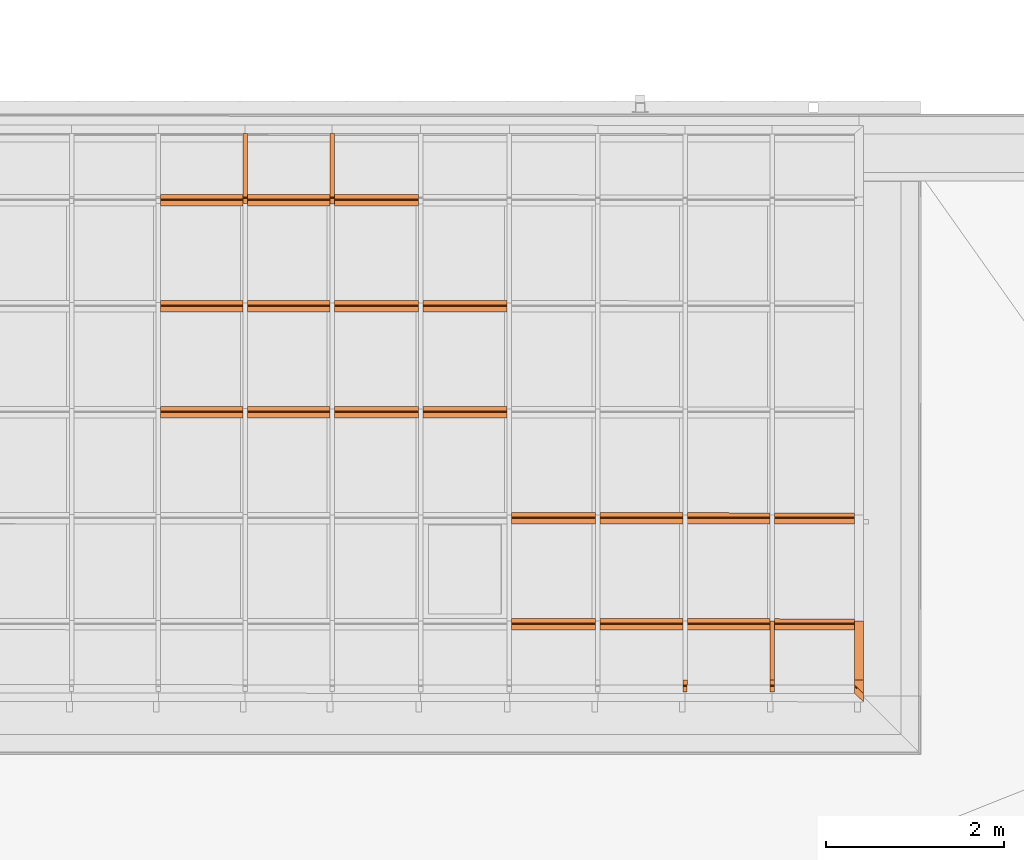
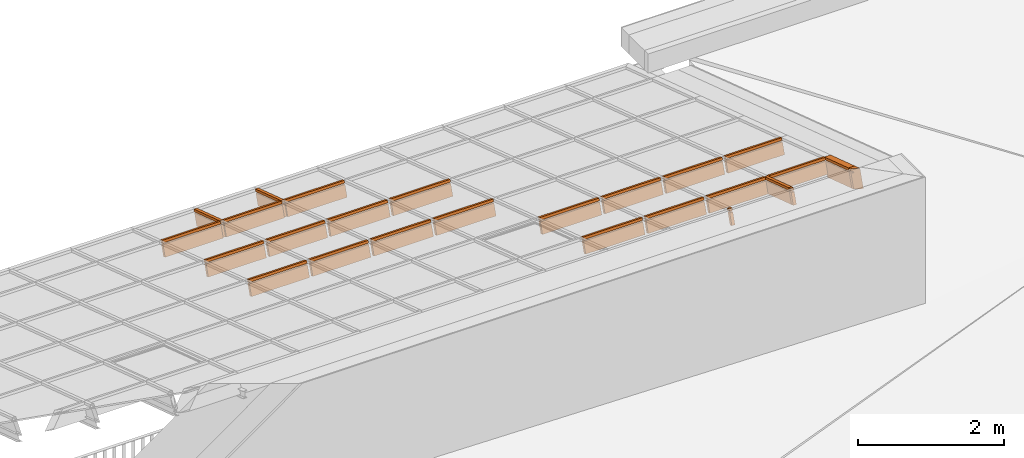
# One storey, part 46 of 47: 26 proxies, 1 element without a shape of its own.
"""IFC2X3 building model written with IfcOpenShell, lengths in millimetres."""

from ifc_helpers import new_model, entity, si_unit, converted_unit, derived_unit, money_unit, direction, frame, origin_with_axes, place, context, subcontext, project, spatial, polyline, outline, extrude, clip, halfspace, material, material_list, type_object, element, aggregate, save


model = new_model("IFC2X3")

# Units and contexts
model_context = context("Model", 3, precision=1e-05, world=origin_with_axes(), true_north=direction((0.0, 1.0)))
body_context = subcontext(model_context, "Body", "Model", "MODEL_VIEW")
ifc_project = project(units=[si_unit("LENGTHUNIT", "METRE", prefix="MILLI"), si_unit("AREAUNIT", "SQUARE_METRE"), si_unit("VOLUMEUNIT", "CUBIC_METRE"), converted_unit("PLANEANGLEUNIT", "DEGREE", entity("IfcPlaneAngleMeasure", 0.0174532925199), si_unit("PLANEANGLEUNIT", "RADIAN"), dimensions=[0, 0, 0, 0, 0, 0, 0]), si_unit("SOLIDANGLEUNIT", "STERADIAN"), money_unit("EUR"), converted_unit("TIMEUNIT", "Year", entity("IfcTimeMeasure", 31556926.0), si_unit("TIMEUNIT", "SECOND"), dimensions=[0, 0, 1, 0, 0, 0, 0]), si_unit("MASSUNIT", "GRAM", prefix="KILO"), si_unit("THERMODYNAMICTEMPERATUREUNIT", "DEGREE_CELSIUS"), si_unit("LUMINOUSINTENSITYUNIT", "LUMEN"), si_unit("ENERGYUNIT", "JOULE", prefix="MEGA"), derived_unit("THERMALCONDUCTANCEUNIT", [(si_unit("POWERUNIT", "WATT"), 1), (si_unit("LENGTHUNIT", "METRE"), -1), (si_unit("THERMODYNAMICTEMPERATUREUNIT", "KELVIN"), -1)]), derived_unit("SPECIFICHEATCAPACITYUNIT", [(si_unit("ENERGYUNIT", "JOULE"), 1), (si_unit("MASSUNIT", "GRAM", prefix="KILO"), -1), (si_unit("THERMODYNAMICTEMPERATUREUNIT", "KELVIN"), -1)]), derived_unit("MASSDENSITYUNIT", [(si_unit("MASSUNIT", "GRAM", prefix="KILO"), 1), (si_unit("VOLUMEUNIT", "CUBIC_METRE"), -1)])], contexts=[model_context])

# Site, building, storey
site_placement = place(None, origin_with_axes())
site = spatial("IfcSite", under=ifc_project, at=site_placement, Name="Site", CompositionType="ELEMENT")
building_placement = place(site_placement, origin_with_axes())
building = spatial("IfcBuilding", under=site, at=building_placement, Name="Building", CompositionType="ELEMENT")
storey_placement = place(building_placement, frame((0.0, 0.0, 6000.0), z_axis=(0.0, 0.0, 1.0), x_axis=(1.0, 0.0, 0.0)))
storey = spatial("IfcBuildingStorey", under=building, at=storey_placement, Name="KATUSEPLAAN", CompositionType="ELEMENT", Elevation=6000.0)

# Curtain wall, proxies
curtain_wall_type = type_object("IfcCurtainWallType", Name="KK-2", PredefinedType="NOTDEFINED")
curtain_wall_placement = place(storey_placement, frame((71638.1505463, 41358.6055567, 722.550081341), z_axis=(0.0, 0.0, 1.0), x_axis=(1.0, 0.0, 0.0)))
curtain_wall = element("IfcCurtainWall", 1, at=curtain_wall_placement, inside=storey, type_object=curtain_wall_type, Name="Talveaja klaaskatus")
ifc_material = material(Name="Alumiinium (1)")
ifc_material_list = material_list([ifc_material, ifc_material])
building_element_proxy_type_1 = type_object("IfcBuildingElementProxyType", Name="Frame-Mll-569", PredefinedType="NOTDEFINED")
proxy_1_placement = place(curtain_wall_placement, frame((9313.99605281, 5979.11495635, 6.01482092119), z_axis=(0.0, -0.950019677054, 0.312190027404), x_axis=(-0.999999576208, 0.00028741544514, 0.000874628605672)))
proxy_1 = element("IfcBuildingElementProxy", 2, at=proxy_1_placement, type_object=building_element_proxy_type_1, material=ifc_material_list, Name="Alumiinium (1);  Objekti nimi: Frame 22", context=body_context, shape_type="SweptSolid", body=[
    extrude(outline(polyline([(25.0091958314, 9.97697969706), (25.1841179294, 199.976899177), (-24.8158608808, 200.022931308), (-24.9907829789, 10.0230118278), (25.0091958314, 9.97697969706)])), frame((0.0, 0.0, 50.0000000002), z_axis=(0.0, 0.0, 1.0), x_axis=(0.999999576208, 0.000920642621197, 0.0)), (0.0, 0.0, 1.0), 744.739022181),
    extrude(outline(polyline([(-25.0091958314, -9.9769796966), (-25.0460215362, -49.9769627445), (24.9539572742, -50.0229948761), (24.9907829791, -10.0230118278), (-25.0091958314, -9.9769796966)])), frame((0.0, 0.0, 50.0000000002), z_axis=(0.0, 0.0, 1.0), x_axis=(0.999999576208, 0.000920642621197, 0.0)), (0.0, 0.0, 1.0), 744.739022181),
])
building_element_proxy_type_2 = type_object("IfcBuildingElementProxyType", Name="Frame-Mll-211", PredefinedType="NOTDEFINED")
proxy_2_placement = place(curtain_wall_placement, frame((10286.9956405, 5978.83530112, 5.16380728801), z_axis=(0.0, -0.950019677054, 0.312190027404), x_axis=(-0.999999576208, 0.000287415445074, 0.000874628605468)))
proxy_2 = element("IfcBuildingElementProxy", 3, at=proxy_2_placement, type_object=building_element_proxy_type_2, material=ifc_material_list, Name="Alumiinium (1);  Objekti nimi: Frame 22", context=body_context, shape_type="SweptSolid", body=[
    extrude(outline(polyline([(25.0091958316, 9.9769796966), (25.1841179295, 199.976899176), (-24.8158608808, 200.022931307), (-24.9907829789, 10.0230118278), (25.0091958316, 9.9769796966)])), frame((1.13686837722e-10, 0.0, 49.9999999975), z_axis=(0.0, 0.0, 1.0), x_axis=(0.999999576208, 0.000920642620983, 0.0)), (0.0, 0.0, 1.0), 744.739022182),
    extrude(outline(polyline([(-25.0091958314, -9.97697969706), (-25.0460215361, -49.9769627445), (24.9539572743, -50.0229948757), (24.9907829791, -10.0230118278), (-25.0091958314, -9.97697969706)])), frame((1.13686837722e-10, 0.0, 49.9999999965), z_axis=(0.0, 0.0, 1.0), x_axis=(0.999999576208, 0.000920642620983, 0.0)), (0.0, 0.0, 1.0), 744.739022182),
])
building_element_proxy_type_3 = type_object("IfcBuildingElementProxyType", Name="Frame-Trs-187", PredefinedType="NOTDEFINED")
proxy_3_placement = place(curtain_wall_placement, frame((8340.99646516, 5224.37690239, 254.975431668), z_axis=(0.999999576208, -0.000287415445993, -0.000874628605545), x_axis=(0.0, -0.950019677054, 0.312190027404)))
proxy_3 = element("IfcBuildingElementProxy", 4, at=proxy_3_placement, type_object=building_element_proxy_type_3, material=ifc_material_list, Name="Alumiinium (1);  Objekti nimi: Frame 22", context=body_context, shape_type="SweptSolid", body=[
    extrude(outline(polyline([(26.8723924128, 1.69544270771), (86.1885203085, 182.199173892), (38.6875384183, 197.808681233), (-20.6285894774, 17.3049500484), (26.8723924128, 1.69544270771)])), frame((0.0, 0.0, 24.9999999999), z_axis=(0.0, 0.0, 1.0), x_axis=(0.950019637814, 0.312190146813, 0.0)), (0.0, 0.0, 1.0), 923.0),
    extrude(outline(polyline([(-26.8723924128, -1.69544270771), (-39.3599982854, -39.6962282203), (8.14098360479, -55.3057355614), (20.6285894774, -17.3049500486), (-26.8723924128, -1.69544270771)])), frame((0.0, 0.0, 24.9999999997), z_axis=(0.0, 0.0, 1.0), x_axis=(0.950019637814, 0.312190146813, 0.0)), (0.0, 0.0, 1.0), 923.000000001),
])
building_element_proxy_type_4 = type_object("IfcBuildingElementProxyType", Name="Frame-Trs-188", PredefinedType="NOTDEFINED")
proxy_4_placement = place(curtain_wall_placement, frame((9313.99605281, 5224.09724716, 254.124418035), z_axis=(0.999999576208, -0.000287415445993, -0.000874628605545), x_axis=(0.0, -0.950019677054, 0.312190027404)))
proxy_4 = element("IfcBuildingElementProxy", 5, at=proxy_4_placement, type_object=building_element_proxy_type_4, material=ifc_material_list, Name="Alumiinium (1);  Objekti nimi: Frame 22", context=body_context, shape_type="SweptSolid", body=[
    extrude(outline(polyline([(26.8723924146, 1.69544270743), (86.1885203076, 182.199173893), (38.6875384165, 197.808681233), (-20.6285894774, 17.3049500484), (26.8723924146, 1.69544270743)])), frame((0.0, 0.0, 24.9999999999), z_axis=(0.0, 0.0, 1.0), x_axis=(0.950019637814, 0.312190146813, 0.0)), (0.0, 0.0, 1.0), 923.0),
    extrude(outline(polyline([(-26.8723924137, -1.69544270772), (-39.3599982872, -39.6962282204), (8.14098360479, -55.3057355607), (20.6285894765, -17.3049500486), (-26.8723924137, -1.69544270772)])), frame((0.0, 0.0, 24.9999999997), z_axis=(0.0, 0.0, 1.0), x_axis=(0.950019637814, 0.312190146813, 0.0)), (0.0, 0.0, 1.0), 923.0),
])
building_element_proxy_type_5 = type_object("IfcBuildingElementProxyType", Name="Frame-Trs-189", PredefinedType="NOTDEFINED")
proxy_5_placement = place(curtain_wall_placement, frame((10286.9956405, 5223.81759193, 253.273404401), z_axis=(0.999999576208, -0.000287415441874, -0.000874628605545), x_axis=(0.0, -0.950019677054, 0.312190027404)))
proxy_5 = element("IfcBuildingElementProxy", 6, at=proxy_5_placement, type_object=building_element_proxy_type_5, material=ifc_material_list, Name="Alumiinium (1);  Objekti nimi: Frame 22", context=body_context, shape_type="SweptSolid", body=[
    extrude(outline(polyline([(26.8723924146, 1.69544270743), (86.1885203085, 182.199173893), (38.6875384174, 197.808681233), (-20.6285894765, 17.3049500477), (26.8723924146, 1.69544270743)])), frame((9.09494701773e-10, 0.0, 24.9999999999), z_axis=(0.0, 0.0, 1.0), x_axis=(0.950019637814, 0.312190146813, 0.0)), (0.0, 0.0, 1.0), 943.0),
    extrude(outline(polyline([(-26.8723924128, -1.69544270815), (-39.3599982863, -39.6962282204), (8.14098360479, -55.3057355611), (20.6285894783, -17.3049500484), (-26.8723924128, -1.69544270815)])), frame((9.09494701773e-10, 0.0, 24.9999999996), z_axis=(0.0, 0.0, 1.0), x_axis=(0.950019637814, 0.312190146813, 0.0)), (0.0, 0.0, 1.0), 943.0),
])
building_element_proxy_type_6 = type_object("IfcBuildingElementProxyType", Name="Frame-Trs-211", PredefinedType="NOTDEFINED")
proxy_6_placement = place(curtain_wall_placement, frame((8340.99646516, 4036.85230607, 645.212965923), z_axis=(0.999999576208, -0.000287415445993, -0.000874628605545), x_axis=(0.0, -0.950019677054, 0.312190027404)))
proxy_6 = element("IfcBuildingElementProxy", 7, at=proxy_6_placement, type_object=building_element_proxy_type_6, material=ifc_material_list, Name="Alumiinium (1);  Objekti nimi: Frame 22", context=body_context, shape_type="SweptSolid", body=[
    extrude(outline(polyline([(26.8723924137, 1.69544270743), (86.1885203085, 182.199173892), (38.6875384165, 197.808681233), (-20.6285894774, 17.3049500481), (26.8723924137, 1.69544270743)])), frame((9.09494701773e-10, 0.0, 25.0), z_axis=(0.0, 0.0, 1.0), x_axis=(0.950019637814, 0.312190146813, 0.0)), (0.0, 0.0, 1.0), 923.000000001),
    extrude(outline(polyline([(-26.8723924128, -1.69544270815), (-39.3599982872, -39.6962282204), (8.14098360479, -55.3057355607), (20.6285894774, -17.3049500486), (-26.8723924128, -1.69544270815)])), frame((9.09494701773e-10, 0.0, 25.0), z_axis=(0.0, 0.0, 1.0), x_axis=(0.950019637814, 0.312190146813, 0.0)), (0.0, 0.0, 1.0), 923.0),
])
building_element_proxy_type_7 = type_object("IfcBuildingElementProxyType", Name="Frame-Trs-250", PredefinedType="NOTDEFINED")
proxy_7_placement = place(curtain_wall_placement, frame((8340.99646516, 2849.32770975, 1035.45050018), z_axis=(0.999999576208, -0.000287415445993, -0.000874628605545), x_axis=(0.0, -0.950019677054, 0.312190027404)))
proxy_7 = element("IfcBuildingElementProxy", 8, at=proxy_7_placement, type_object=building_element_proxy_type_7, material=ifc_material_list, Name="Alumiinium (1);  Objekti nimi: Frame 22", context=body_context, shape_type="SweptSolid", body=[
    extrude(outline(polyline([(26.8723924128, 1.695442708), (86.1885203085, 182.199173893), (38.6875384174, 197.808681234), (-20.6285894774, 17.3049500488), (26.8723924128, 1.695442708)])), frame((-9.09494701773e-10, 4.54747350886e-10, 24.9999999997), z_axis=(0.0, 0.0, 1.0), x_axis=(0.950019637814, 0.312190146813, 0.0)), (0.0, 0.0, 1.0), 923.0),
    extrude(outline(polyline([(-26.8723924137, -1.69544270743), (-39.3599982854, -39.69622822), (8.14098360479, -55.3057355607), (20.6285894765, -17.3049500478), (-26.8723924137, -1.69544270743)])), frame((-9.09494701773e-10, 4.54747350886e-10, 24.9999999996), z_axis=(0.0, 0.0, 1.0), x_axis=(0.950019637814, 0.312190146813, 0.0)), (0.0, 0.0, 1.0), 923.000000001),
])
building_element_proxy_type_8 = type_object("IfcBuildingElementProxyType", Name="Frame-Trs-212", PredefinedType="NOTDEFINED")
proxy_8_placement = place(curtain_wall_placement, frame((9313.99605281, 4036.57265084, 644.361952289), z_axis=(0.999999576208, -0.000287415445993, -0.000874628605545), x_axis=(0.0, -0.950019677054, 0.312190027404)))
proxy_8 = element("IfcBuildingElementProxy", 9, at=proxy_8_placement, type_object=building_element_proxy_type_8, material=ifc_material_list, Name="Alumiinium (1);  Objekti nimi: Frame 22", context=body_context, shape_type="SweptSolid", body=[
    extrude(outline(polyline([(26.8723924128, 1.69544270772), (86.1885203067, 182.199173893), (38.6875384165, 197.808681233), (-20.6285894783, 17.3049500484), (26.8723924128, 1.69544270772)])), frame((9.09494701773e-10, 0.0, 25.0000000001), z_axis=(0.0, 0.0, 1.0), x_axis=(0.950019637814, 0.312190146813, 0.0)), (0.0, 0.0, 1.0), 923.0),
    extrude(outline(polyline([(-26.8723924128, -1.69544270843), (-39.3599982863, -39.6962282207), (8.14098360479, -55.3057355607), (20.6285894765, -17.3049500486), (-26.8723924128, -1.69544270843)])), frame((9.09494701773e-10, 0.0, 25.0000000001), z_axis=(0.0, 0.0, 1.0), x_axis=(0.950019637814, 0.312190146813, 0.0)), (0.0, 0.0, 1.0), 923.0),
])
building_element_proxy_type_9 = type_object("IfcBuildingElementProxyType", Name="Frame-Trs-249", PredefinedType="NOTDEFINED")
proxy_9_placement = place(curtain_wall_placement, frame((9313.99605281, 2849.04805452, 1034.59948654), z_axis=(0.999999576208, -0.000287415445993, -0.000874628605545), x_axis=(0.0, -0.950019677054, 0.312190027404)))
proxy_9 = element("IfcBuildingElementProxy", 10, at=proxy_9_placement, type_object=building_element_proxy_type_9, material=ifc_material_list, Name="Alumiinium (1);  Objekti nimi: Frame 22", context=body_context, shape_type="SweptSolid", body=[
    extrude(outline(polyline([(26.8723924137, 1.69544270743), (86.1885203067, 182.199173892), (38.6875384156, 197.808681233), (-20.6285894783, 17.3049500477), (26.8723924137, 1.69544270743)])), frame((9.09494701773e-10, 0.0, 24.9999999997), z_axis=(0.0, 0.0, 1.0), x_axis=(0.950019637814, 0.312190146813, 0.0)), (0.0, 0.0, 1.0), 923.0),
    extrude(outline(polyline([(-26.8723924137, -1.69544270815), (-39.3599982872, -39.6962282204), (8.14098360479, -55.3057355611), (20.6285894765, -17.3049500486), (-26.8723924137, -1.69544270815)])), frame((9.09494701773e-10, 0.0, 24.9999999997), z_axis=(0.0, 0.0, 1.0), x_axis=(0.950019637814, 0.312190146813, 0.0)), (0.0, 0.0, 1.0), 923.0),
])
building_element_proxy_type_10 = type_object("IfcBuildingElementProxyType", Name="Frame-Trs-213", PredefinedType="NOTDEFINED")
proxy_10_placement = place(curtain_wall_placement, frame((10286.9956405, 4036.29299561, 643.510938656), z_axis=(0.999999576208, -0.000287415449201, -0.000874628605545), x_axis=(0.0, -0.950019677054, 0.312190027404)))
proxy_10 = element("IfcBuildingElementProxy", 11, at=proxy_10_placement, type_object=building_element_proxy_type_10, material=ifc_material_list, Name="Alumiinium (1);  Objekti nimi: Frame 22", context=body_context, shape_type="SweptSolid", body=[
    extrude(outline(polyline([(26.8723924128, 1.695442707), (86.1885203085, 182.199173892), (38.6875384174, 197.808681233), (-20.6285894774, 17.3049500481), (26.8723924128, 1.695442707)])), frame((9.09494701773e-10, 0.0, 24.9999999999), z_axis=(0.0, 0.0, 1.0), x_axis=(0.950019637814, 0.312190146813, 0.0)), (0.0, 0.0, 1.0), 943.0),
    extrude(outline(polyline([(-26.8723924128, -1.69544270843), (-39.3599982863, -39.6962282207), (8.14098360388, -55.3057355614), (20.6285894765, -17.3049500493), (-26.8723924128, -1.69544270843)])), frame((9.09494701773e-10, 0.0, 24.9999999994), z_axis=(0.0, 0.0, 1.0), x_axis=(0.950019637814, 0.312190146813, 0.0)), (0.0, 0.0, 1.0), 943.0),
])
building_element_proxy_type_11 = type_object("IfcBuildingElementProxyType", Name="Frame-Trs-248", PredefinedType="NOTDEFINED")
proxy_11_placement = place(curtain_wall_placement, frame((10286.9956405, 2848.76839929, 1033.74847291), z_axis=(0.999999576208, -0.000287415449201, -0.000874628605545), x_axis=(0.0, -0.950019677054, 0.312190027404)))
proxy_11 = element("IfcBuildingElementProxy", 12, at=proxy_11_placement, type_object=building_element_proxy_type_11, material=ifc_material_list, Name="Alumiinium (1);  Objekti nimi: Frame 22", context=body_context, shape_type="SweptSolid", body=[
    extrude(outline(polyline([(26.8723924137, 1.69544270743), (86.1885203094, 182.199173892), (38.6875384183, 197.808681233), (-20.6285894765, 17.3049500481), (26.8723924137, 1.69544270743)])), frame((9.09494701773e-10, 0.0, 25.0000000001), z_axis=(0.0, 0.0, 1.0), x_axis=(0.950019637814, 0.312190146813, 0.0)), (0.0, 0.0, 1.0), 943.0),
    extrude(outline(polyline([(-26.8723924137, -1.69544270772), (-39.3599982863, -39.6962282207), (8.14098360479, -55.3057355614), (20.6285894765, -17.3049500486), (-26.8723924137, -1.69544270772)])), frame((9.09494701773e-10, 0.0, 24.9999999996), z_axis=(0.0, 0.0, 1.0), x_axis=(0.950019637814, 0.312190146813, 0.0)), (0.0, 0.0, 1.0), 943.000000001),
])
building_element_proxy_type_12 = type_object("IfcBuildingElementProxyType", Name="Frame-Trs-214", PredefinedType="NOTDEFINED")
proxy_12_placement = place(curtain_wall_placement, frame((11279.9952196, 4036.00759207, 642.642432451), z_axis=(0.999999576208, -0.000287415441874, -0.000874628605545), x_axis=(0.0, -0.950019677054, 0.312190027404)))
proxy_12 = element("IfcBuildingElementProxy", 13, at=proxy_12_placement, type_object=building_element_proxy_type_12, material=ifc_material_list, Name="Alumiinium (1);  Objekti nimi: Frame 22", context=body_context, shape_type="SweptSolid", body=[
    extrude(outline(polyline([(26.8723924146, 1.69544270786), (86.1885203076, 182.199173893), (38.6875384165, 197.808681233), (-20.6285894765, 17.3049500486), (26.8723924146, 1.69544270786)])), frame((0.0, 0.0, 25.0000000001), z_axis=(0.0, 0.0, 1.0), x_axis=(0.950019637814, 0.312190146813, 0.0)), (0.0, 0.0, 1.0), 943.0),
    extrude(outline(polyline([(-26.8723924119, -1.695442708), (-39.3599982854, -39.6962282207), (8.1409836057, -55.3057355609), (20.6285894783, -17.3049500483), (-26.8723924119, -1.695442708)])), frame((0.0, 0.0, 24.9999999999), z_axis=(0.0, 0.0, 1.0), x_axis=(0.950019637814, 0.312190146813, 0.0)), (0.0, 0.0, 1.0), 943.0),
])
building_element_proxy_type_13 = type_object("IfcBuildingElementProxyType", Name="Frame-Trs-247", PredefinedType="NOTDEFINED")
proxy_13_placement = place(curtain_wall_placement, frame((11279.9952196, 2848.48299575, 1032.87996671), z_axis=(0.999999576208, -0.000287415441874, -0.000874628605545), x_axis=(0.0, -0.950019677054, 0.312190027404)))
proxy_13 = element("IfcBuildingElementProxy", 14, at=proxy_13_placement, type_object=building_element_proxy_type_13, material=ifc_material_list, Name="Alumiinium (1);  Objekti nimi: Frame 22", context=body_context, shape_type="SweptSolid", body=[
    extrude(outline(polyline([(26.8723924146, 1.69544270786), (86.1885203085, 182.199173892), (38.6875384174, 197.808681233), (-20.6285894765, 17.3049500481), (26.8723924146, 1.69544270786)])), frame((0.0, 0.0, 25.0), z_axis=(0.0, 0.0, 1.0), x_axis=(0.950019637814, 0.312190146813, 0.0)), (0.0, 0.0, 1.0), 943.0),
    extrude(outline(polyline([(-26.8723924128, -1.695442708), (-39.3599982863, -39.696228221), (8.14098360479, -55.3057355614), (20.6285894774, -17.3049500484), (-26.8723924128, -1.695442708)])), frame((0.0, 0.0, 24.9999999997), z_axis=(0.0, 0.0, 1.0), x_axis=(0.950019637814, 0.312190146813, 0.0)), (0.0, 0.0, 1.0), 943.0),
])
building_element_proxy_type_14 = type_object("IfcBuildingElementProxyType", Name="Frame-Trs-767", PredefinedType="NOTDEFINED")
proxy_14_placement = place(curtain_wall_placement, frame((12272.9947988, 1660.6729959, 1422.24899476), z_axis=(0.999999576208, -0.000287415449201, -0.000874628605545), x_axis=(0.0, -0.950019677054, 0.312190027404)))
proxy_14 = element("IfcBuildingElementProxy", 15, at=proxy_14_placement, type_object=building_element_proxy_type_14, material=ifc_material_list, Name="Alumiinium (1);  Objekti nimi: Frame 22", context=body_context, shape_type="SweptSolid", body=[
    extrude(outline(polyline([(26.8723924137, 1.69544270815), (86.1885203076, 182.199173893), (38.6875384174, 197.808681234), (-20.6285894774, 17.3049500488), (26.8723924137, 1.69544270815)])), frame((0.0, 4.54747350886e-10, 24.9999999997), z_axis=(0.0, 0.0, 1.0), x_axis=(0.950019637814, 0.312190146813, 0.0)), (0.0, 0.0, 1.0), 943.0),
    extrude(outline(polyline([(-26.8723924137, -1.695442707), (-39.3599982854, -39.69622822), (8.14098360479, -55.3057355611), (20.6285894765, -17.3049500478), (-26.8723924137, -1.695442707)])), frame((0.0, 4.54747350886e-10, 24.9999999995), z_axis=(0.0, 0.0, 1.0), x_axis=(0.950019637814, 0.312190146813, 0.0)), (0.0, 0.0, 1.0), 943.000000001),
])
building_element_proxy_type_15 = type_object("IfcBuildingElementProxyType", Name="Frame-Trs-769", PredefinedType="NOTDEFINED")
proxy_15_placement = place(curtain_wall_placement, frame((14241.9939644, 1660.10707489, 1420.52685103), z_axis=(0.999999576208, -0.000287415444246, -0.000874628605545), x_axis=(0.0, -0.950019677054, 0.312190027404)))
proxy_15 = element("IfcBuildingElementProxy", 16, at=proxy_15_placement, type_object=building_element_proxy_type_15, material=ifc_material_list, Name="Alumiinium (1);  Objekti nimi: Frame 22", context=body_context, shape_type="SweptSolid", body=[
    extrude(outline(polyline([(26.8723924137, 1.69544270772), (86.1885203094, 182.199173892), (38.6875384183, 197.808681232), (-20.6285894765, 17.3049500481), (26.8723924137, 1.69544270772)])), frame((0.0, 0.0, 24.9999999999), z_axis=(0.0, 0.0, 1.0), x_axis=(0.950019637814, 0.312190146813, 0.0)), (0.0, 0.0, 1.0), 926.0),
    extrude(outline(polyline([(-26.8723924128, -1.69544270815), (-39.3599982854, -39.6962282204), (8.14098360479, -55.3057355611), (20.6285894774, -17.3049500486), (-26.8723924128, -1.69544270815)])), frame((0.0, 0.0, 24.9999999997), z_axis=(0.0, 0.0, 1.0), x_axis=(0.950019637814, 0.312190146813, 0.0)), (0.0, 0.0, 1.0), 926.000000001),
])
building_element_proxy_type_16 = type_object("IfcBuildingElementProxyType", Name="Frame-Trs-535", PredefinedType="NOTDEFINED")
proxy_16_placement = place(curtain_wall_placement, frame((12272.9947988, 473.148399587, 1812.48652901), z_axis=(0.999999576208, -0.000287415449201, -0.000874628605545), x_axis=(0.0, -0.950019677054, 0.312190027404)))
proxy_16 = element("IfcBuildingElementProxy", 17, at=proxy_16_placement, type_object=building_element_proxy_type_16, material=ifc_material_list, Name="Alumiinium (1);  Objekti nimi: Frame 22", context=body_context, shape_type="SweptSolid", body=[
    extrude(outline(polyline([(26.8723924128, 1.69544270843), (86.1885203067, 182.199173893), (38.6875384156, 197.808681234), (-20.6285894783, 17.3049500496), (26.8723924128, 1.69544270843)])), frame((-9.09494701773e-10, 0.0, 25.0000000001), z_axis=(0.0, 0.0, 1.0), x_axis=(0.950019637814, 0.312190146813, 0.0)), (0.0, 0.0, 1.0), 943.0),
    extrude(outline(polyline([(-26.8723924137, -1.695442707), (-39.3599982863, -39.6962282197), (8.14098360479, -55.3057355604), (20.6285894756, -17.3049500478), (-26.8723924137, -1.695442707)])), frame((-9.09494701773e-10, 0.0, 24.9999999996), z_axis=(0.0, 0.0, 1.0), x_axis=(0.950019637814, 0.312190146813, 0.0)), (0.0, 0.0, 1.0), 943.000000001),
])
building_element_proxy_type_17 = type_object("IfcBuildingElementProxyType", Name="Frame-Trs-537", PredefinedType="NOTDEFINED")
proxy_17_placement = place(curtain_wall_placement, frame((14241.9939644, 472.582478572, 1810.76438529), z_axis=(0.999999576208, -0.000287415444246, -0.000874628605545), x_axis=(0.0, -0.950019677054, 0.312190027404)))
proxy_17 = element("IfcBuildingElementProxy", 18, at=proxy_17_placement, type_object=building_element_proxy_type_17, material=ifc_material_list, Name="Alumiinium (1);  Objekti nimi: Frame 22", context=body_context, shape_type="SweptSolid", body=[
    extrude(outline(polyline([(26.8723924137, 1.69544270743), (86.1885203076, 182.199173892), (38.6875384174, 197.808681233), (-20.6285894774, 17.304950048), (26.8723924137, 1.69544270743)])), frame((9.09494701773e-10, 0.0, 25.0000000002), z_axis=(0.0, 0.0, 1.0), x_axis=(0.950019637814, 0.312190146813, 0.0)), (0.0, 0.0, 1.0), 926.0),
    extrude(outline(polyline([(-26.8723924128, -1.69544270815), (-39.3599982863, -39.6962282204), (8.14098360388, -55.3057355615), (20.6285894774, -17.304950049), (-26.8723924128, -1.69544270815)])), frame((9.09494701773e-10, 0.0, 25.0), z_axis=(0.0, 0.0, 1.0), x_axis=(0.950019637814, 0.312190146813, 0.0)), (0.0, 0.0, 1.0), 926.000000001),
])
building_element_proxy_type_18 = type_object("IfcBuildingElementProxyType", Name="Frame-Bnd-639", PredefinedType="NOTDEFINED")
proxy_18_placement = place(curtain_wall_placement, frame((16190.9931384, -192.991468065, 2027.59275332), z_axis=(0.0, -0.950019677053, 0.312190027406), x_axis=(-0.999999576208, 0.000287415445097, 0.000874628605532)))
proxy_18 = element("IfcBuildingElementProxy", 19, at=proxy_18_placement, type_object=building_element_proxy_type_18, material=ifc_material, Name="Alumiinium (1);  Objekti nimi: Built-in Frame", context=body_context, shape_type="Clipping", body=[
    clip(extrude(outline(polyline([(20.0091979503, 9.98158291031), (50.0091852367, 9.95396363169), (50.2301394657, 249.953861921), (-49.7698181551, 250.045926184), (-50.0460109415, -49.9539466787), (49.9539466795, -50.0460109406), (49.9907723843, -10.0460278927), (19.9907850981, -10.0184086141), (20.0091979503, 9.98158291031)])), frame((0.0, 4.54747350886e-10, -1.81898940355e-09), z_axis=(0.0, 0.0, 1.0), x_axis=(0.999999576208, 0.000920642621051, 0.0)), (0.0, 0.0, 1.0), 155.260977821), halfspace(frame((52.6304889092, 1.22109822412e-10, 52.6304889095), z_axis=(-0.707106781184, 0.0, -0.707106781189), x_axis=(0.0, 1.0, 0.0)), True)),
])
building_element_proxy_type_19 = type_object("IfcBuildingElementProxyType", Name="Frame-Trs-768", PredefinedType="NOTDEFINED")
proxy_19_placement = place(curtain_wall_placement, frame((13265.994378, 1660.38759236, 1421.38048855), z_axis=(0.999999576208, -0.000287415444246, -0.000874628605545), x_axis=(0.0, -0.950019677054, 0.312190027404)))
proxy_19 = element("IfcBuildingElementProxy", 20, at=proxy_19_placement, type_object=building_element_proxy_type_19, material=ifc_material_list, Name="Alumiinium (1);  Objekti nimi: Frame 22", context=body_context, shape_type="SweptSolid", body=[
    extrude(outline(polyline([(26.8723924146, 1.69544270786), (86.1885203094, 182.199173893), (38.6875384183, 197.808681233), (-20.6285894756, 17.3049500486), (26.8723924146, 1.69544270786)])), frame((9.09494701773e-10, 0.0, 25.0000000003), z_axis=(0.0, 0.0, 1.0), x_axis=(0.950019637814, 0.312190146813, 0.0)), (0.0, 0.0, 1.0), 926.0),
    extrude(outline(polyline([(-26.8723924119, -1.69544270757), (-39.3599982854, -39.696228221), (8.14098360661, -55.3057355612), (20.6285894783, -17.3049500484), (-26.8723924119, -1.69544270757)])), frame((9.09494701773e-10, 0.0, 25.0), z_axis=(0.0, 0.0, 1.0), x_axis=(0.950019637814, 0.312190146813, 0.0)), (0.0, 0.0, 1.0), 926.0),
])
building_element_proxy_type_20 = type_object("IfcBuildingElementProxyType", Name="Frame-Trs-770", PredefinedType="NOTDEFINED")
proxy_20_placement = place(curtain_wall_placement, frame((15217.9935507, 1659.82655741, 1419.67321351), z_axis=(0.999999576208, -0.000287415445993, -0.000874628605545), x_axis=(0.0, -0.950019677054, 0.312190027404)))
proxy_20 = element("IfcBuildingElementProxy", 21, at=proxy_20_placement, type_object=building_element_proxy_type_20, material=ifc_material_list, Name="Alumiinium (1);  Objekti nimi: Frame 22", context=body_context, shape_type="SweptSolid", body=[
    extrude(outline(polyline([(26.8723924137, 1.69544270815), (86.1885203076, 182.199173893), (38.6875384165, 197.808681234), (-20.6285894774, 17.3049500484), (26.8723924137, 1.69544270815)])), frame((0.0, 0.0, 25.0), z_axis=(0.0, 0.0, 1.0), x_axis=(0.950019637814, 0.312190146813, 0.0)), (0.0, 0.0, 1.0), 898.0),
    extrude(outline(polyline([(-26.8723924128, -1.69544270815), (-39.3599982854, -39.6962282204), (8.1409836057, -55.3057355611), (20.6285894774, -17.3049500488), (-26.8723924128, -1.69544270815)])), frame((0.0, 0.0, 24.9999999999), z_axis=(0.0, 0.0, 1.0), x_axis=(0.950019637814, 0.312190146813, 0.0)), (0.0, 0.0, 1.0), 898.0),
])
building_element_proxy_type_21 = type_object("IfcBuildingElementProxyType", Name="Frame-Bnd-638", PredefinedType="NOTDEFINED")
proxy_21_placement = place(curtain_wall_placement, frame((16190.9931384, 472.022305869, 1809.05973413), z_axis=(0.0, -0.950019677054, 0.312190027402), x_axis=(-0.999999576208, 0.000287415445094, 0.000874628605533)))
proxy_21 = element("IfcBuildingElementProxy", 22, at=proxy_21_placement, type_object=building_element_proxy_type_21, material=ifc_material, Name="Alumiinium (1);  Objekti nimi: Built-in Frame", context=body_context, shape_type="SweptSolid", body=[
    extrude(outline(polyline([(20.0091979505, 9.98158291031), (50.0091852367, 9.95396363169), (50.2301394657, 249.953861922), (-49.769818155, 250.045926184), (-50.0460109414, -49.9539466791), (49.9539466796, -50.0460109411), (49.9907723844, -10.0460278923), (19.9907850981, -10.0184086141), (20.0091979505, 9.98158291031)])), frame((0.0, 0.0, -3.63797880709e-09), z_axis=(0.0, 0.0, 1.0), x_axis=(0.999999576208, 0.000920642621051, 0.0)), (0.0, 0.0, 1.0), 700.000000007),
])
building_element_proxy_type_22 = type_object("IfcBuildingElementProxyType", Name="Frame-Mll-891", PredefinedType="NOTDEFINED")
proxy_22_placement = place(curtain_wall_placement, frame((15217.9935507, 472.301961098, 1809.91074777), z_axis=(0.0, -0.950019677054, 0.312190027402), x_axis=(-0.999999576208, 0.000287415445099, 0.000874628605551)))
proxy_22 = element("IfcBuildingElementProxy", 23, at=proxy_22_placement, type_object=building_element_proxy_type_22, material=ifc_material_list, Name="Alumiinium (1);  Objekti nimi: Frame 22", context=body_context, shape_type="SweptSolid", body=[
    extrude(outline(polyline([(25.0091958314, 9.97697969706), (25.1841179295, 199.976899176), (-24.8158608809, 200.022931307), (-24.990782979, 10.0230118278), (25.0091958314, 9.97697969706)])), frame((0.0, 0.0, -9.09494701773e-10), z_axis=(0.0, 0.0, 1.0), x_axis=(0.999999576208, 0.00092064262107, 0.0)), (0.0, 0.0, 1.0), 700.000000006),
    extrude(outline(polyline([(-25.0091958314, -9.9769796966), (-25.0460215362, -49.9769627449), (24.9539572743, -50.0229948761), (24.9907829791, -10.0230118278), (-25.0091958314, -9.9769796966)])), frame((0.0, 0.0, 0.0), z_axis=(0.0, 0.0, 1.0), x_axis=(0.999999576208, 0.00092064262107, 0.0)), (0.0, 0.0, 1.0), 700.000000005),
])
building_element_proxy_type_23 = type_object("IfcBuildingElementProxyType", Name="Frame-Trs-536", PredefinedType="NOTDEFINED")
proxy_23_placement = place(curtain_wall_placement, frame((13265.994378, 472.862996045, 1811.6180228), z_axis=(0.999999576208, -0.000287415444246, -0.000874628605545), x_axis=(0.0, -0.950019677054, 0.312190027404)))
proxy_23 = element("IfcBuildingElementProxy", 24, at=proxy_23_placement, type_object=building_element_proxy_type_23, material=ifc_material_list, Name="Alumiinium (1);  Objekti nimi: Frame 22", context=body_context, shape_type="SweptSolid", body=[
    extrude(outline(polyline([(26.8723924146, 1.69544270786), (86.1885203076, 182.199173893), (38.6875384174, 197.808681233), (-20.6285894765, 17.3049500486), (26.8723924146, 1.69544270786)])), frame((0.0, 4.54747350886e-10, 24.9999999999), z_axis=(0.0, 0.0, 1.0), x_axis=(0.950019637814, 0.312190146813, 0.0)), (0.0, 0.0, 1.0), 926.0),
    extrude(outline(polyline([(-26.8723924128, -1.69544270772), (-39.3599982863, -39.69622822), (8.14098360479, -55.3057355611), (20.6285894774, -17.3049500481), (-26.8723924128, -1.69544270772)])), frame((0.0, 4.54747350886e-10, 24.9999999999), z_axis=(0.0, 0.0, 1.0), x_axis=(0.950019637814, 0.312190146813, 0.0)), (0.0, 0.0, 1.0), 926.0),
])
building_element_proxy_type_24 = type_object("IfcBuildingElementProxyType", Name="Frame-Trs-538", PredefinedType="NOTDEFINED")
proxy_24_placement = place(curtain_wall_placement, frame((15217.9935507, 472.301961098, 1809.91074777), z_axis=(0.999999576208, -0.000287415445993, -0.000874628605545), x_axis=(0.0, -0.950019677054, 0.312190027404)))
proxy_24 = element("IfcBuildingElementProxy", 25, at=proxy_24_placement, type_object=building_element_proxy_type_24, material=ifc_material_list, Name="Alumiinium (1);  Objekti nimi: Frame 22", context=body_context, shape_type="SweptSolid", body=[
    extrude(outline(polyline([(26.8723924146, 1.69544270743), (86.1885203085, 182.199173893), (38.6875384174, 197.808681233), (-20.6285894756, 17.3049500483), (26.8723924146, 1.69544270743)])), frame((9.09494701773e-10, 0.0, 25.0), z_axis=(0.0, 0.0, 1.0), x_axis=(0.950019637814, 0.312190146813, 0.0)), (0.0, 0.0, 1.0), 898.0),
    extrude(outline(polyline([(-26.8723924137, -1.69544270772), (-39.3599982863, -39.6962282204), (8.14098360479, -55.3057355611), (20.6285894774, -17.3049500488), (-26.8723924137, -1.69544270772)])), frame((9.09494701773e-10, 0.0, 24.9999999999), z_axis=(0.0, 0.0, 1.0), x_axis=(0.950019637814, 0.312190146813, 0.0)), (0.0, 0.0, 1.0), 898.000000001),
])
building_element_proxy_type_25 = type_object("IfcBuildingElementProxyType", Name="Frame-Mll-014", PredefinedType="NOTDEFINED")
proxy_25_placement = place(curtain_wall_placement, frame((14241.9939644, -192.431295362, 2029.29740447), z_axis=(0.0, -0.950019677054, 0.312190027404), x_axis=(-0.999999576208, 0.000287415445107, 0.000874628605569)))
proxy_25 = element("IfcBuildingElementProxy", 26, at=proxy_25_placement, type_object=building_element_proxy_type_25, material=ifc_material_list, Name="Alumiinium (1);  Objekti nimi: Frame 22", context=body_context, shape_type="SweptSolid", body=[
    extrude(outline(polyline([(25.0091958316, 9.97697969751), (25.1841179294, 199.976899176), (-24.8158608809, 200.022931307), (-24.9907829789, 10.0230118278), (25.0091958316, 9.97697969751)])), frame((0.0, 0.0, -2.72848410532e-09), z_axis=(0.0, 0.0, 1.0), x_axis=(0.999999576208, 0.000920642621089, 0.0)), (0.0, 0.0, 1.0), 55.2609778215),
    extrude(outline(polyline([(-25.0091958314, -9.9769796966), (-25.0460215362, -49.9769627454), (24.9539572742, -50.0229948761), (24.990782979, -10.0230118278), (-25.0091958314, -9.9769796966)])), frame((0.0, 0.0, -3.63797880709e-09), z_axis=(0.0, 0.0, 1.0), x_axis=(0.999999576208, 0.000920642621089, 0.0)), (0.0, 0.0, 1.0), 55.2609778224),
])
building_element_proxy_type_26 = type_object("IfcBuildingElementProxyType", Name="Frame-Mll-015", PredefinedType="NOTDEFINED")
proxy_26_placement = place(curtain_wall_placement, frame((15217.9935507, -192.711812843, 2028.44376695), z_axis=(0.0, -0.950019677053, 0.312190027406), x_axis=(-0.999999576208, 0.000287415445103, 0.00087462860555)))
proxy_26 = element("IfcBuildingElementProxy", 27, at=proxy_26_placement, type_object=building_element_proxy_type_26, material=ifc_material_list, Name="Alumiinium (1);  Objekti nimi: Frame 22", context=body_context, shape_type="SweptSolid", body=[
    extrude(outline(polyline([(25.0091958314, 9.97697969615), (25.1841179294, 199.976899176), (-24.8158608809, 200.022931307), (-24.990782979, 10.0230118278), (25.0091958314, 9.97697969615)])), frame((0.0, 0.0, -2.72848410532e-09), z_axis=(0.0, 0.0, 1.0), x_axis=(0.999999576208, 0.00092064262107, 0.0)), (0.0, 0.0, 1.0), 55.2609778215),
    extrude(outline(polyline([(-25.0091958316, -9.9769796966), (-25.0460215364, -49.9769627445), (24.9539572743, -50.0229948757), (24.9907829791, -10.0230118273), (-25.0091958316, -9.9769796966)])), frame((0.0, 4.54747350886e-10, -1.81898940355e-09), z_axis=(0.0, 0.0, 1.0), x_axis=(0.999999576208, 0.00092064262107, 0.0)), (0.0, 0.0, 1.0), 55.2609778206),
])
aggregate(curtain_wall, [proxy_1, proxy_2, proxy_3, proxy_4, proxy_5, proxy_6, proxy_7, proxy_8, proxy_9, proxy_10, proxy_11, proxy_12, proxy_13, proxy_14, proxy_15, proxy_16, proxy_17, proxy_18, proxy_19, proxy_20, proxy_21, proxy_22, proxy_23, proxy_24, proxy_25, proxy_26])

save(model, "model.ifc")
